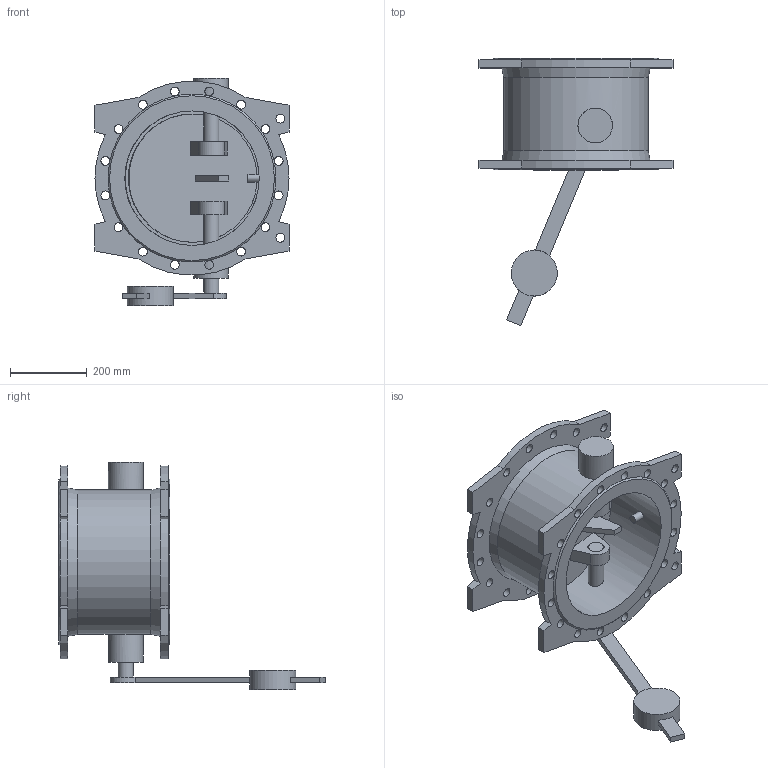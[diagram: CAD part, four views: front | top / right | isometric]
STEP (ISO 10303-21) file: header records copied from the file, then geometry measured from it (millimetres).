
FILE_DESCRIPTION(('STEP AP203'), '1');
FILE_NAME('Êëàïàí 015F.PV DN350 PN10 ñ ïðîòèâîâåñîì', '', ('UNSPECIFIED'), ('UNSPECIFIED'), 'ASCON STEP Converter 1.6', 'ASCON Math Kernel', '');
FILE_SCHEMA(('CONFIG_CONTROL_DESIGN'));
Length unit declared in the file: millimetre
Bounding box: 505 x 695 x 592 mm (x, y, z)
Volume: 12541323.4 mm3; surface area: 1599348.5 mm2
Topology: 1 solids, 1 shells, 128 faces, 385 edges, 245 vertices
Faces by surface type: plane 63, cylinder 58, cone 4, extrusion 2, bspline 1
Full cylindrical faces by diameter (mm): 20 x1, 23 x36, 40 x3, 42 x2, 90 x2, 120 x1, 350 x1, 376 x1
Entity records: 6193 total; most frequent: CARTESIAN_POINT 1680, DIRECTION 718, ORIENTED_EDGE 624, EDGE_CURVE 312, AXIS2_PLACEMENT_3D 293, EDGE_LOOP 278, VERTEX_POINT 235, FACE_BOUND 197
